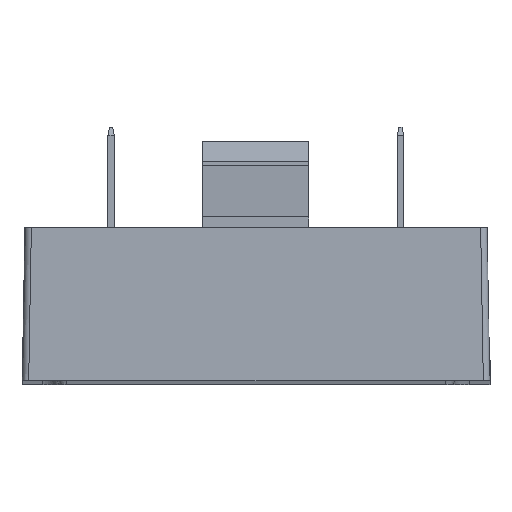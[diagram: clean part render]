
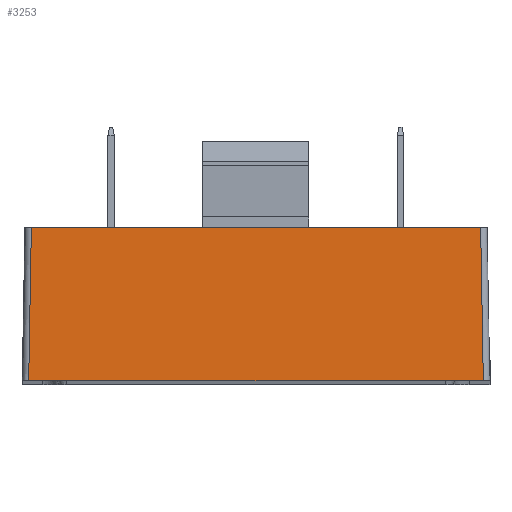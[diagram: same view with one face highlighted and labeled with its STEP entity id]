
A CAD part, front view. The second image highlights one B-rep face of the part: STEP entity #3253.
In plain terms, the highlighted planar face has unit normal (0, -1, 0.018).
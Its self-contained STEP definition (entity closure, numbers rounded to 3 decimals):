
#402=FACE_OUTER_BOUND('',#588,.T.);
#588=EDGE_LOOP('',(#2710,#2711,#2712,#2713));
#917=LINE('',#5051,#1294);
#918=LINE('',#5055,#1295);
#919=LINE('',#5056,#1296);
#920=LINE('',#5057,#1297);
#1294=VECTOR('',#4164,1.);
#1295=VECTOR('',#4167,1.);
#1296=VECTOR('',#4168,1.);
#1297=VECTOR('',#4169,1.);
#1596=VERTEX_POINT('',#5044);
#1599=VERTEX_POINT('',#5049);
#1600=VERTEX_POINT('',#5053);
#1601=VERTEX_POINT('',#5054);
#1991=EDGE_CURVE('',#1599,#1596,#917,.T.);
#1992=EDGE_CURVE('',#1600,#1601,#918,.T.);
#1993=EDGE_CURVE('',#1600,#1596,#919,.T.);
#1994=EDGE_CURVE('',#1601,#1599,#920,.T.);
#2710=ORIENTED_EDGE('',*,*,#1992,.F.);
#2711=ORIENTED_EDGE('',*,*,#1993,.T.);
#2712=ORIENTED_EDGE('',*,*,#1991,.F.);
#2713=ORIENTED_EDGE('',*,*,#1994,.F.);
#3094=PLANE('',#3484);
#3253=ADVANCED_FACE('',(#402),#3094,.T.);
#3484=AXIS2_PLACEMENT_3D('',#5052,#4165,#4166);
#4164=DIRECTION('',(0.017,0.017,1.));
#4165=DIRECTION('center_axis',(0.,-1.,
0.017));
#4166=DIRECTION('ref_axis',(0.,-0.017,-1.));
#4167=DIRECTION('',(0.017,-0.017,-1.));
#4168=DIRECTION('',(-1.,0.,0.));
#4169=DIRECTION('',(-1.,0.,0.));
#5044=CARTESIAN_POINT('',(-27.838,-21.818,19.5));
#5049=CARTESIAN_POINT('',(-28.17,-22.15,0.5));
#5051=CARTESIAN_POINT('',(-28.162,-22.141,0.992));
#5052=CARTESIAN_POINT('Origin',(29.03,-22.15,0.5));
#5053=CARTESIAN_POINT('',(27.898,-21.818,19.5));
#5054=CARTESIAN_POINT('',(28.23,-22.15,0.5));
#5055=CARTESIAN_POINT('',(28.224,-22.143,0.872));
#5056=CARTESIAN_POINT('',(29.03,-21.818,19.5));
#5057=CARTESIAN_POINT('',(29.03,-22.15,0.5));
